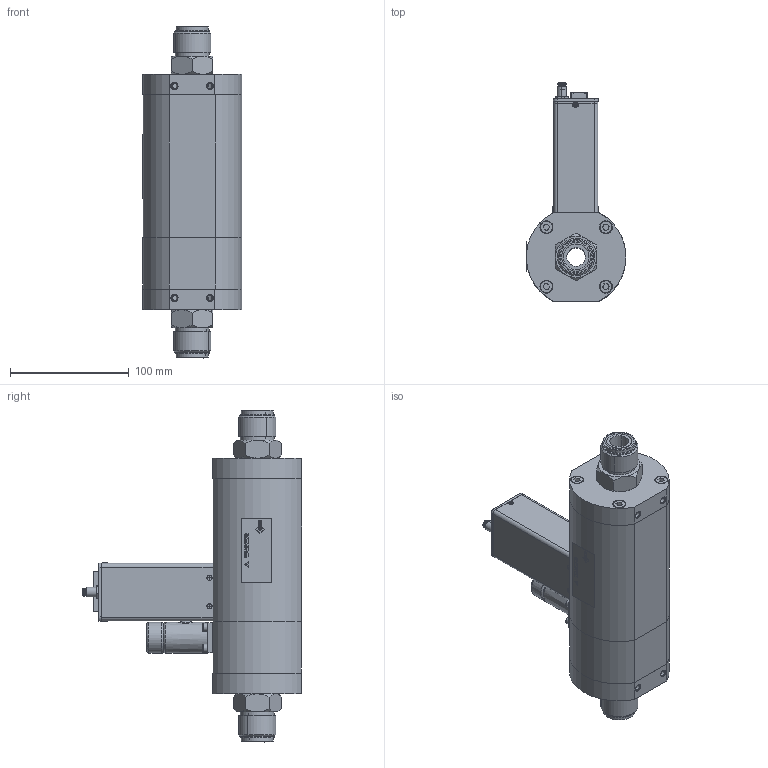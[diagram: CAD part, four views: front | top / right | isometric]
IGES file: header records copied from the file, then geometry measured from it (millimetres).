
Start section: SolidWorks IGES file using analytic representation for surfaces
Global section: file name: G:\Engineering\CAD MODELS FOR SALES\CAD MODEL STORAGE\SLA\SLA5853\IGES\SLA5853-8-2T-2-A-REVB.IGS; native system: SolidWorks 2020; preprocessor: SolidWorks 2020; author: CFehr; date: 210630.132915; units: inch
Bounding box: 84.02 x 184.93 x 280.08 mm (x, y, z)
Volume: 561106.1 mm3; surface area: 225755.3 mm2
Topology: 74 solids, 74 shells, 2507 faces, 6515 edges, 4132 vertices
Faces by surface type: plane 1517, revolution 837, bspline 153
